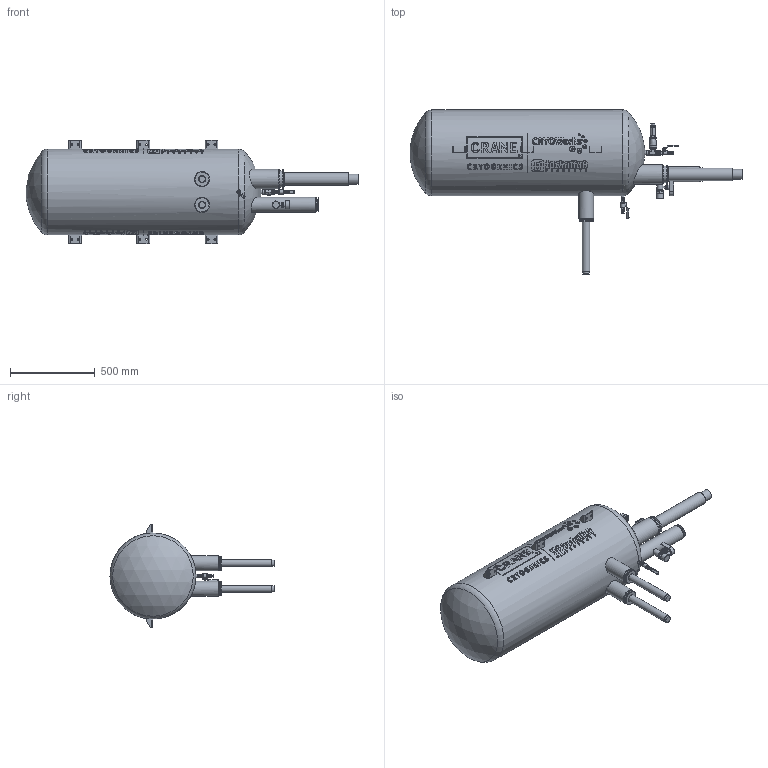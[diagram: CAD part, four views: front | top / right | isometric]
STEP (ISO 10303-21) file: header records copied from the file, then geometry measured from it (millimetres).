
FILE_DESCRIPTION (( 'STEP AP203' ), '1' );
FILE_NAME ('CA01727 CryoWorks High Flow Phase Separator 2 Outlet REV E.STEP', '2026-02-06T22:02:00', ( '' ), ( '' ), 'SwSTEP 2.0', 'SolidWorks 2023', '' );
FILE_SCHEMA (( 'CONFIG_CONTROL_DESIGN' ));
Length unit declared in the file: inch
Products named in the file (1): CA01727 CryoWorks High Flow Phase Separator 2 Outlet REV E
Bounding box: 1962.66 x 969.96 x 611.06 mm (x, y, z)
Volume: 269593747 mm3; surface area: 3062828.2 mm2
Topology: 1 solids, 13 shells, 2481 faces, 6311 edges, 4060 vertices
Faces by surface type: plane 1161, cylinder 629, cone 450, bspline 202, torus 27, sphere 12
Full cylindrical faces by diameter (mm): 4.66 x2, 4.75 x2, 4.775 x1, 5.105 x2, 5.527 x14, 5.546 x2, 6.221 x14, 6.272 x4, 6.35 x4, 6.362 x2, 7.112 x1, 7.183 x2, 7.976 x2, 9.188 x2, 9.246 x3, 9.257 x2, 9.525 x12, 9.58 x2, 9.842 x2, 10.262 x1, 10.635 x2, 11.1 x1, 11.112 x6, 11.333 x2, 11.879 x2, 12.494 x2, 12.508 x2, 12.7 x1, 13.494 x2, 14.267 x2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
Entity records: 174908 total; most frequent: CARTESIAN_POINT 121532, ORIENTED_EDGE 11522, DIRECTION 9695, EDGE_CURVE 5761, VERTEX_POINT 3888, AXIS2_PLACEMENT_3D 3667, EDGE_LOOP 3147, FACE_OUTER_BOUND 2663
